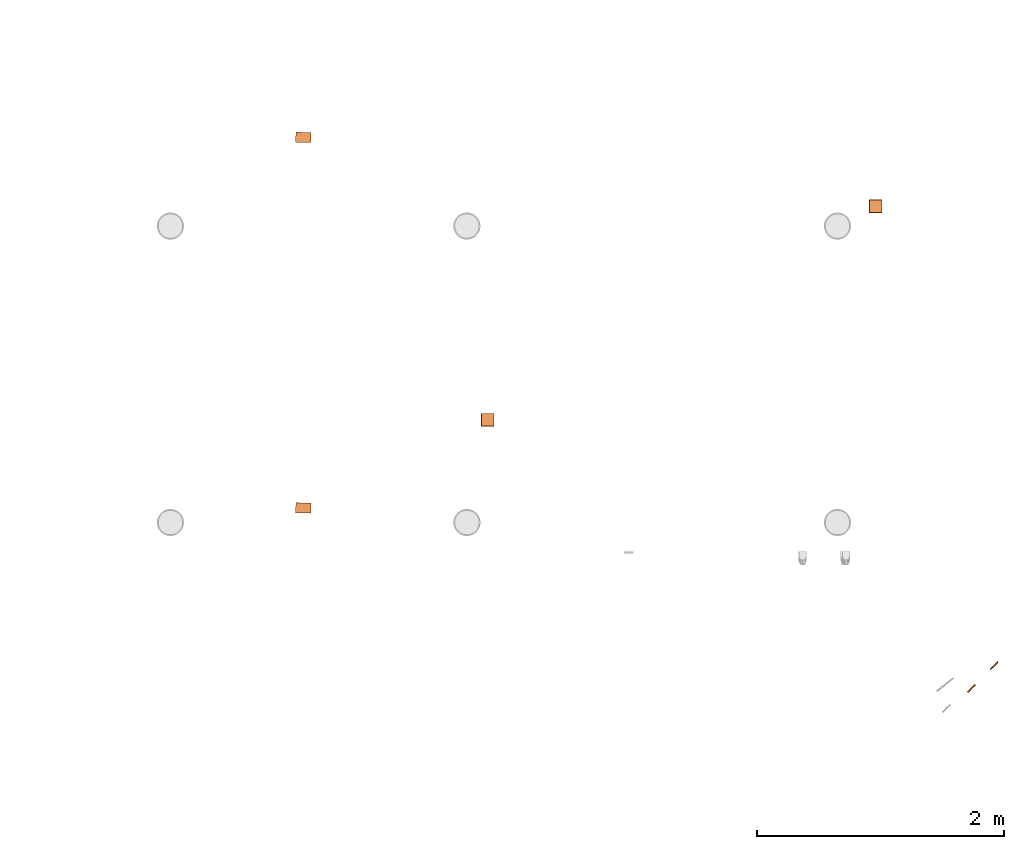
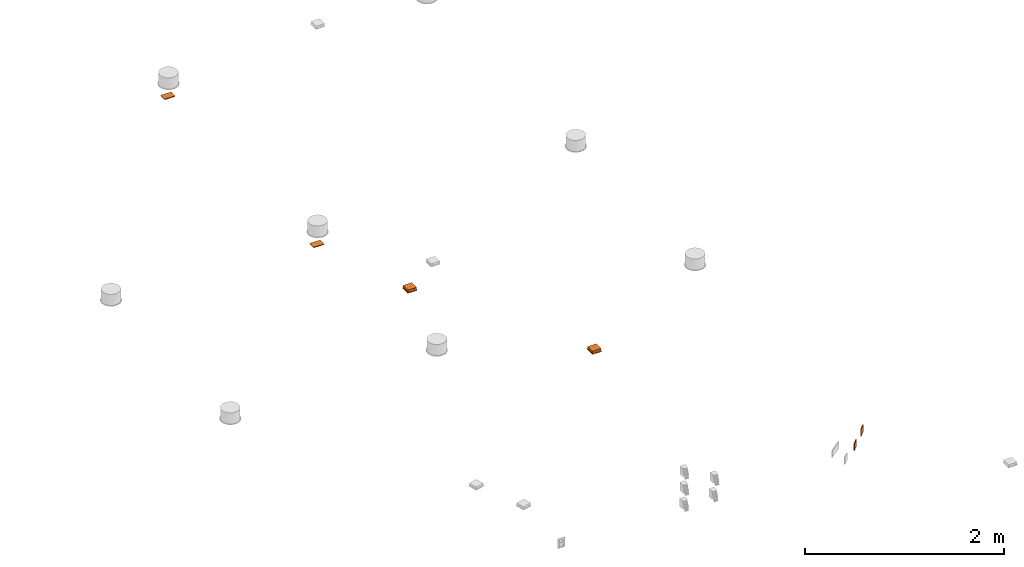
# One storey, part 5 of 9: 6 proxies.
"""IFC2X3 building model written with IfcOpenShell, lengths in millimetres."""

from ifc_helpers import new_model, entity, si_unit, converted_unit, derived_unit, direction, frame, frame_2d, origin, origin_2d_with_axis, place, context, subcontext, project, spatial, polyline, circle_curve, parameter, trimmed, segment, composite_curve, rectangle, circle, hollow_circle, outline, extrude, source, transform, mapped, material, type_object, element, save


model = new_model("IFC2X3")

# Units and contexts
model_context = context("Model", 3, precision=0.01, world=frame((0.0, 4.29681676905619e-09, 0.0)), true_north=direction((4.01073788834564e-13, 1.0)))
plan_context = context("Plan", 3, precision=0.01, world=frame((0.0, 4.29681676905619e-09, 0.0)), true_north=direction((4.01073788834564e-13, 1.0)))
body_context = subcontext(model_context, "Body", "Model", "MODEL_VIEW")
ifc_project = project(units=[converted_unit("PLANEANGLEUNIT", "DEGREE", entity("IfcPositiveLengthMeasure", 0.0174532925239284), si_unit("PLANEANGLEUNIT", "RADIAN"), dimensions=[0, 0, 0, 0, 0, 0, 0]), si_unit("AREAUNIT", "SQUARE_METRE"), si_unit("LENGTHUNIT", "METRE", prefix="MILLI"), si_unit("MASSUNIT", "GRAM", prefix="KILO"), si_unit("POWERUNIT", "WATT"), si_unit("PRESSUREUNIT", "PASCAL", prefix="KILO"), si_unit("FORCEUNIT", "NEWTON", prefix="KILO"), si_unit("ELECTRICVOLTAGEUNIT", "VOLT"), si_unit("ELECTRICCURRENTUNIT", "AMPERE"), si_unit("THERMODYNAMICTEMPERATUREUNIT", "DEGREE_CELSIUS"), si_unit("TIMEUNIT", "SECOND"), si_unit("VOLUMEUNIT", "CUBIC_METRE"), derived_unit("LINEARVELOCITYUNIT", [(si_unit("LENGTHUNIT", "METRE"), 1), (si_unit("TIMEUNIT", "SECOND"), -1)]), derived_unit("VOLUMETRICFLOWRATEUNIT", [(si_unit("VOLUMEUNIT", "CUBIC_METRE"), 1), (si_unit("TIMEUNIT", "SECOND"), -1)]), derived_unit("THERMALTRANSMITTANCEUNIT", [(si_unit("POWERUNIT", "WATT"), 1), (si_unit("THERMODYNAMICTEMPERATUREUNIT", "KELVIN"), -1), (si_unit("AREAUNIT", "SQUARE_METRE"), -1)]), derived_unit("SOUNDPRESSUREUNIT", [(si_unit("PRESSUREUNIT", "PASCAL"), 1)])], contexts=[model_context, plan_context])

# Site, building, storey
site_placement = place(None, frame((0.0, -4.29681676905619e-09, 0.0), z_axis=(0.0, 0.0, 1.0), x_axis=(1.0, 0.0, 0.0)))
site = spatial("IfcSite", under=ifc_project, at=site_placement, Name="Default", CompositionType="ELEMENT")
building_placement = place(site_placement, frame((0.0, 4.29681676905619e-09, 0.0), z_axis=(0.0, 0.0, 1.0), x_axis=(1.0, 0.0, 0.0)))
building = spatial("IfcBuilding", under=site, at=building_placement, CompositionType="ELEMENT")
storey_placement = place(building_placement, frame((0.0, 0.0, 210900.0), z_axis=(0.0, 0.0, 1.0), x_axis=(1.0, 0.0, 0.0)))
storey = spatial("IfcBuildingStorey", under=building, at=storey_placement, Name="Nivå F", CompositionType="ELEMENT", Elevation=210900.0)

# Proxies
ifc_material = material(Name="<Unnamed>")
building_element_proxy_type_1 = type_object("IfcBuildingElementProxyType", Name="Jordet-topolet-2-veis m_boks-i-tak:Jordet-topolet-2-veis m_boks-i-tak", PredefinedType="NOTDEFINED", material=ifc_material)
shared_shape_1 = source(origin(), body_context, "Body", "SweptSolid", [
    extrude(outline(composite_curve([segment(polyline([(-6.66666666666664, -6.66666666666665), (13.3333333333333, -6.66666666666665)]), True, "CONTINUOUS"), segment(trimmed(circle_curve(frame_2d((13.3333333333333, 13.3333333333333), x_axis=(-1.0, 0.0)), 20.0), [parameter(360.0)], [parameter(90.0)], True, "PARAMETER"), False, "CONTINUOUS"), segment(polyline([(-6.66666666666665, 13.3333333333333), (-6.66666666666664, -6.66666666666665)]), True, "CONTINUOUS")], self_intersect=False)), frame((39.0833333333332, 13.3933333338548, -17.1), z_axis=(0.0, 0.0, 1.0), x_axis=(-1.0, 0.0, 0.0)), (0.0, 0.0, 1.0), 0.200000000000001),
    extrude(outline(composite_curve([segment(polyline([(-6.66666666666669, -6.66666666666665), (13.3333333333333, -6.66666666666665)]), True, "CONTINUOUS"), segment(trimmed(circle_curve(frame_2d((13.3333333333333, 13.3333333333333), x_axis=(0.0, -1.0)), 20.0), [parameter(270.0)], [parameter(5.08888749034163e-14)], True, "PARAMETER"), False, "CONTINUOUS"), segment(polyline([(-6.66666666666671, 13.3333333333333), (-6.66666666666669, -6.66666666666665)]), True, "CONTINUOUS")], self_intersect=False)), frame((39.0833333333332, -13.3233333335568, -17.1), z_axis=(0.0, 0.0, 1.0), x_axis=(0.0, 1.0, 0.0)), (0.0, 0.0, 1.0), 0.200000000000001),
    extrude(outline(composite_curve([segment(polyline([(-6.66666666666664, -6.66666666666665), (13.3333333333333, -6.66666666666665)]), True, "CONTINUOUS"), segment(trimmed(circle_curve(frame_2d((13.3333333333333, 13.3333333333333), x_axis=(0.0, -1.0)), 20.0), [parameter(270.0)], [parameter(0.0)], True, "PARAMETER"), False, "CONTINUOUS"), segment(polyline([(-6.66666666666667, 13.3333333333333), (-6.66666666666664, -6.66666666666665)]), True, "CONTINUOUS")], self_intersect=False)), frame((12.4166666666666, 13.3433333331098, -17.1), z_axis=(0.0, 0.0, 1.0), x_axis=(0.0, -1.0, 0.0)), (0.0, 0.0, 1.0), 0.200000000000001),
    extrude(outline(composite_curve([segment(polyline([(-6.66666666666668, -6.66666666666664), (13.3333333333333, -6.66666666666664)]), True, "CONTINUOUS"), segment(trimmed(circle_curve(frame_2d((13.3333333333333, 13.3333333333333), x_axis=(0.0, -1.0)), 20.0), [parameter(270.0)], [parameter(0.0)], True, "PARAMETER"), False, "CONTINUOUS"), segment(polyline([(-6.66666666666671, 13.3333333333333), (-6.66666666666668, -6.66666666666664)]), True, "CONTINUOUS")], self_intersect=False)), frame((39.0833333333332, -13.3833333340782, -17.1), z_axis=(0.0, 0.0, 1.0), x_axis=(0.0, 1.0, 0.0)), (0.0, 0.0, 1.0), 0.200000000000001),
    extrude(outline(composite_curve([segment(polyline([(-6.66666666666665, -6.66666666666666), (13.3333333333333, -6.66666666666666)]), True, "CONTINUOUS"), segment(trimmed(circle_curve(frame_2d((13.3333333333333, 13.3333333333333), x_axis=(-1.0, 0.0)), 20.0), [parameter(360.0)], [parameter(89.9999999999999)], True, "PARAMETER"), False, "CONTINUOUS"), segment(polyline([(-6.66666666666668, 13.3333333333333), (-6.66666666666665, -6.66666666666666)]), True, "CONTINUOUS")], self_intersect=False)), frame((39.0833333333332, 13.3333333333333, -17.1), z_axis=(0.0, 0.0, 1.0), x_axis=(-1.0, 0.0, 0.0)), (0.0, 0.0, 1.0), 0.200000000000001),
    extrude(outline(composite_curve([segment(polyline([(-6.66666666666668, -6.66666666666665), (13.3333333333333, -6.66666666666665)]), True, "CONTINUOUS"), segment(trimmed(circle_curve(frame_2d((13.3333333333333, 13.3333333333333), x_axis=(-1.0, 0.0)), 20.0), [parameter(0.0)], [parameter(90.0)], True, "PARAMETER"), False, "CONTINUOUS"), segment(polyline([(-6.66666666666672, 13.3333333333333), (-6.66666666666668, -6.66666666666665)]), True, "CONTINUOUS")], self_intersect=False)), frame((12.4166666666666, -13.3333333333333, -17.1)), (0.0, 0.0, 1.0), 0.200000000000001),
    extrude(outline(composite_curve([segment(polyline([(-6.66666666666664, -6.66666666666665), (13.3333333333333, -6.66666666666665)]), True, "CONTINUOUS"), segment(trimmed(circle_curve(frame_2d((13.3333333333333, 13.3333333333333), x_axis=(-1.0, 0.0)), 20.0), [parameter(0.0)], [parameter(90.0)], True, "PARAMETER"), False, "CONTINUOUS"), segment(polyline([(-6.66666666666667, 13.3333333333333), (-6.66666666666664, -6.66666666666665)]), True, "CONTINUOUS")], self_intersect=False)), frame((-12.4166666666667, 13.3933333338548, -17.1), z_axis=(0.0, 0.0, 1.0), x_axis=(-1.0, 0.0, 0.0)), (0.0, 0.0, 1.0), 0.200000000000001),
    extrude(outline(composite_curve([segment(polyline([(-6.66666666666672, -6.66666666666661), (13.3333333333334, -6.66666666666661)]), True, "CONTINUOUS"), segment(trimmed(circle_curve(frame_2d((13.3333333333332, 13.3333333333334), x_axis=(0.0, -1.0)), 20.0), [parameter(270.0)], [parameter(3.56222124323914e-13)], True, "PARAMETER"), False, "CONTINUOUS"), segment(polyline([(-6.66666666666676, 13.3333333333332), (-6.66666666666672, -6.66666666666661)]), True, "CONTINUOUS")], self_intersect=False)), frame((-12.4166666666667, -13.3233333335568, -17.1), z_axis=(0.0, 0.0, 1.0), x_axis=(0.0, 1.0, 0.0)), (0.0, 0.0, 1.0), 0.200000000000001),
    extrude(outline(composite_curve([segment(polyline([(-6.66666666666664, -6.66666666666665), (13.3333333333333, -6.66666666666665)]), True, "CONTINUOUS"), segment(trimmed(circle_curve(frame_2d((13.3333333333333, 13.3333333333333), x_axis=(0.0, -1.0)), 20.0), [parameter(270.0)], [parameter(0.0)], True, "PARAMETER"), False, "CONTINUOUS"), segment(polyline([(-6.66666666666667, 13.3333333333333), (-6.66666666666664, -6.66666666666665)]), True, "CONTINUOUS")], self_intersect=False)), frame((-39.0833333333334, 13.3433333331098, -17.1), z_axis=(0.0, 0.0, 1.0), x_axis=(0.0, -1.0, 0.0)), (0.0, 0.0, 1.0), 0.200000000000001),
    extrude(outline(composite_curve([segment(polyline([(-6.66666666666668, -6.66666666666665), (13.3333333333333, -6.66666666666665)]), True, "CONTINUOUS"), segment(trimmed(circle_curve(frame_2d((13.3333333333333, 13.3333333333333), x_axis=(0.0, -1.0)), 20.0), [parameter(270.0)], [parameter(0.0)], True, "PARAMETER"), False, "CONTINUOUS"), segment(polyline([(-6.66666666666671, 13.3333333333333), (-6.66666666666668, -6.66666666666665)]), True, "CONTINUOUS")], self_intersect=False)), frame((-12.4166666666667, -13.3833333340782, -17.1), z_axis=(0.0, 0.0, 1.0), x_axis=(0.0, 1.0, 0.0)), (0.0, 0.0, 1.0), 0.200000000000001),
    extrude(outline(composite_curve([segment(polyline([(-6.66666666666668, -6.66666666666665), (13.3333333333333, -6.66666666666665)]), True, "CONTINUOUS"), segment(trimmed(circle_curve(frame_2d((13.3333333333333, 13.3333333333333), x_axis=(-1.0, 0.0)), 20.0), [parameter(0.0)], [parameter(90.0)], True, "PARAMETER"), False, "CONTINUOUS"), segment(polyline([(-6.66666666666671, 13.3333333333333), (-6.66666666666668, -6.66666666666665)]), True, "CONTINUOUS")], self_intersect=False)), frame((-12.4166666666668, 13.3333333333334, -17.1), z_axis=(0.0, 0.0, 1.0), x_axis=(-1.0, 0.0, 0.0)), (0.0, 0.0, 1.0), 0.200000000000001),
    extrude(outline(composite_curve([segment(polyline([(-6.66666666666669, -6.66666666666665), (13.3333333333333, -6.66666666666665)]), True, "CONTINUOUS"), segment(trimmed(circle_curve(frame_2d((13.3333333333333, 13.3333333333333), x_axis=(-1.0, 0.0)), 20.0), [parameter(0.0)], [parameter(90.0)], True, "PARAMETER"), False, "CONTINUOUS"), segment(polyline([(-6.66666666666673, 13.3333333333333), (-6.66666666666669, -6.66666666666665)]), True, "CONTINUOUS")], self_intersect=False)), frame((-39.0833333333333, -13.3333333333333, -17.1)), (0.0, 0.0, 1.0), 0.200000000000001),
    extrude(rectangle(XDim=0.200000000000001, YDim=1.0, at=origin_2d_with_axis()), frame((26.1999999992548, -17.5, -19.0), z_axis=(0.0, 0.0, 1.0), x_axis=(0.0, 1.0, 0.0)), (0.0, 0.0, 1.0), 6.0),
    extrude(rectangle(XDim=0.200000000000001, YDim=1.0, at=frame_2d((2.11636264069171e-15, 0.0), x_axis=(1.0, 0.0))), frame((26.1999999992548, -19.5, -17.0), z_axis=(0.0, 0.0, 1.0), x_axis=(0.0, 1.0, 0.0)), (0.0, 0.0, 1.0), 12.0),
    extrude(rectangle(XDim=0.200000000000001, YDim=1.0, at=frame_2d((2.11636264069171e-15, 0.0), x_axis=(1.0, 0.0))), frame((26.1999999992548, 17.5, -19.0), z_axis=(0.0, 0.0, 1.0), x_axis=(0.0, 1.0, 0.0)), (0.0, 0.0, 1.0), 6.0),
    extrude(rectangle(XDim=0.200000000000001, YDim=1.0, at=frame_2d((2.11636264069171e-15, 0.0), x_axis=(1.0, 0.0))), frame((26.1999999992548, 19.5, -17.0), z_axis=(0.0, 0.0, 1.0), x_axis=(0.0, 1.0, 0.0)), (0.0, 0.0, 1.0), 12.0),
    extrude(rectangle(XDim=0.200000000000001, YDim=1.0, at=origin_2d_with_axis()), frame((-25.3000000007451, -17.5, -19.0), z_axis=(0.0, 0.0, 1.0), x_axis=(0.0, 1.0, 0.0)), (0.0, 0.0, 1.0), 6.0),
    extrude(rectangle(XDim=0.200000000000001, YDim=1.0, at=frame_2d((2.11636264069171e-15, 0.0), x_axis=(1.0, 0.0))), frame((-25.3000000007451, -19.5, -17.0), z_axis=(0.0, 0.0, 1.0), x_axis=(0.0, 1.0, 0.0)), (0.0, 0.0, 1.0), 12.0),
    extrude(rectangle(XDim=0.200000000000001, YDim=1.0, at=frame_2d((2.11636264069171e-15, 0.0), x_axis=(1.0, 0.0))), frame((-25.3000000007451, 17.5, -19.0), z_axis=(0.0, 0.0, 1.0), x_axis=(0.0, 1.0, 0.0)), (0.0, 0.0, 1.0), 6.0),
    extrude(rectangle(XDim=0.200000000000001, YDim=1.0, at=frame_2d((2.11636264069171e-15, 0.0), x_axis=(1.0, 0.0))), frame((-25.3000000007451, 19.5, -17.0), z_axis=(0.0, 0.0, 1.0), x_axis=(0.0, 1.0, 0.0)), (0.0, 0.0, 1.0), 12.0),
    extrude(rectangle(XDim=11.0, YDim=40.0, at=origin_2d_with_axis()), frame((25.7499999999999, 25.5099999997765, -17.1), z_axis=(0.0, 0.0, 1.0), x_axis=(0.0, -1.0, 0.0)), (0.0, 0.0, 1.0), 0.200000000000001),
    extrude(rectangle(XDim=40.0, YDim=11.0, at=frame_2d((5.32907051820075e-15, 2.22044604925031e-15), x_axis=(1.0, 0.0))), frame((25.7499999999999, -25.5, -17.1)), (0.0, 0.0, 1.0), 0.200000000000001),
    extrude(rectangle(XDim=5.75, YDim=61.9999999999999, at=origin_2d_with_axis()), frame((48.625, 0.0, -17.1)), (0.0, 0.0, 1.0), 0.200000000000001),
    extrude(rectangle(XDim=61.9999999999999, YDim=5.74999999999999, at=frame_2d((0.0, 4.44089209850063e-16), x_axis=(1.0, 0.0))), frame((2.87499999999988, 0.0, -17.1), z_axis=(0.0, 0.0, 1.0), x_axis=(0.0, 1.0, 0.0)), (0.0, 0.0, 1.0), 0.200000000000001),
    extrude(rectangle(XDim=11.0, YDim=40.0, at=frame_2d((0.0, -3.5527136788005e-15), x_axis=(1.0, 0.0))), frame((-25.75, 25.5099999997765, -17.1), z_axis=(0.0, 0.0, 1.0), x_axis=(0.0, -1.0, 0.0)), (0.0, 0.0, 1.0), 0.200000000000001),
    extrude(rectangle(XDim=40.0, YDim=11.0, at=frame_2d((0.0, 2.22044604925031e-15), x_axis=(1.0, 0.0))), frame((-25.75, -25.5, -17.1)), (0.0, 0.0, 1.0), 0.200000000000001),
    extrude(rectangle(XDim=5.74999999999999, YDim=61.9999999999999, at=frame_2d((-4.44089209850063e-16, 0.0), x_axis=(1.0, 0.0))), frame((-2.875, 0.0, -17.1)), (0.0, 0.0, 1.0), 0.200000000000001),
    extrude(rectangle(XDim=61.9999999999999, YDim=5.75, at=origin_2d_with_axis()), frame((-48.6250000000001, 0.0, -17.1), z_axis=(0.0, 0.0, 1.0), x_axis=(0.0, 1.0, 0.0)), (0.0, 0.0, 1.0), 0.200000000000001),
    extrude(outline(polyline([(-28.6835176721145, -30.3192317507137), (-10.1362806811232, -30.3192317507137), (23.2918790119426, 21.8972229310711), (15.5279193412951, 38.7412405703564), (-28.6835176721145, -30.3192317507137)])), frame((56.42317787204, 0.0, -10.9359815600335), z_axis=(0.768221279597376, 0.0, -0.64018439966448), x_axis=(-0.539163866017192, 0.539163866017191, -0.646996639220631)), (0.0, 0.0, 1.0), 0.199999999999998),
    extrude(outline(polyline([(-28.6835176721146, -30.3192317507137), (-10.1362806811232, -30.3192317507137), (23.2918790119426, 21.897222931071), (15.5279193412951, 38.7412405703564), (-28.6835176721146, -30.3192317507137)])), frame((-56.5768221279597, 0.0, -11.0640184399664), z_axis=(0.768221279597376, 0.0, 0.64018439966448), x_axis=(0.539163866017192, 0.539163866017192, -0.646996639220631)), (0.0, 0.0, 1.0), 0.199999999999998),
    extrude(outline(polyline([(-51.4999999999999, -7.81024967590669), (51.5, -7.81024967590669), (61.4999999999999, 7.81024967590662), (-61.5, 7.81024967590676), (-51.4999999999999, -7.81024967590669)])), frame((0.0, -36.0768221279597, -11.0640184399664), z_axis=(0.0, 0.768221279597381, 0.640184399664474), x_axis=(-1.0, 0.0, 0.0)), (0.0, 0.0, 1.0), 0.200000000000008),
    extrude(outline(polyline([(-51.4999999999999, -7.81024967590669), (51.5, -7.81024967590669), (61.4999999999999, 7.81024967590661), (-61.5, 7.81024967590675), (-51.4999999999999, -7.81024967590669)])), frame((0.0, 35.9231778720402, -10.9359815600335), z_axis=(0.0, 0.768221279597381, -0.640184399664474), x_axis=(-1.0, 0.0, 0.0)), (0.0, 0.0, 1.0), 0.199999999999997),
    extrude(circle(Radius=2.5, at=frame_2d((-4.22994972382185e-15, -1.1255311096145e-14), x_axis=(1.0, 0.0))), frame((35.7499999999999, 0.0, -5.6), z_axis=(0.0, 0.0, 1.0), x_axis=(-1.0, 0.0, 0.0)), (0.0, 0.0, 1.0), 0.2),
    extrude(circle(Radius=2.5, at=frame_2d((0.0, -1.1255311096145e-14), x_axis=(1.0, 0.0))), frame((15.7499999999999, 0.0, -5.6), z_axis=(0.0, 0.0, 1.0), x_axis=(-1.0, 0.0, 0.0)), (0.0, 0.0, 1.0), 0.2),
    extrude(circle(Radius=2.5, at=frame_2d((0.0, -1.1255311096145e-14), x_axis=(1.0, 0.0))), frame((-15.75, 0.0, -5.6), z_axis=(0.0, 0.0, 1.0), x_axis=(-1.0, 0.0, 0.0)), (0.0, 0.0, 1.0), 0.2),
    extrude(circle(Radius=2.5, at=frame_2d((0.0, -1.1255311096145e-14), x_axis=(1.0, 0.0))), frame((-35.75, 0.0, -5.6), z_axis=(0.0, 0.0, 1.0), x_axis=(-1.0, 0.0, 0.0)), (0.0, 0.0, 1.0), 0.2),
    extrude(circle(Radius=20.0, at=frame_2d((0.0, -9.00424887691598e-14), x_axis=(1.0, 0.0))), frame((25.7499999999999, 0.0, -5.09999999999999), z_axis=(0.0, 0.0, 1.0), x_axis=(-1.0, 0.0, 0.0)), (0.0, 0.0, 1.0), 0.2),
    extrude(circle(Radius=20.0, at=frame_2d((4.22994972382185e-15, -9.00424887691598e-14), x_axis=(1.0, 0.0))), frame((-25.75, 0.0, -5.09999999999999), z_axis=(0.0, 0.0, 1.0), x_axis=(-1.0, 0.0, 0.0)), (0.0, 0.0, 1.0), 0.2),
    extrude(outline(composite_curve([segment(trimmed(circle_curve(frame_2d((-0.800000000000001, 0.799999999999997), x_axis=(1.0, 0.0)), 2.0), [parameter(270.0)], [parameter(0.0)], True, "PARAMETER"), True, "CONTINUOUS"), segment(polyline([(1.2, 0.799999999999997), (0.400000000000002, 0.799999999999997)]), True, "CONTINUOUS"), segment(trimmed(circle_curve(frame_2d((-0.800000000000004, 0.800000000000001), x_axis=(0.0, -1.0)), 1.20000000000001), [parameter(0.0)], [parameter(89.9999999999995)], True, "PARAMETER"), False, "CONTINUOUS"), segment(polyline([(-0.799999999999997, -0.400000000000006), (-0.799999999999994, -1.2)]), True, "CONTINUOUS")], self_intersect=False)), frame((24.6999999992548, -18.3, -17.8), z_axis=(1.0, 0.0, 0.0), x_axis=(0.0, 0.0, -1.0)), (0.0, 0.0, 1.0), 2.0),
    extrude(outline(composite_curve([segment(polyline([(-1.2, -0.800000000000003), (-0.399999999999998, -0.800000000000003)]), True, "CONTINUOUS"), segment(trimmed(circle_curve(frame_2d((0.800000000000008, -0.800000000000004), x_axis=(-1.0, 0.0)), 1.20000000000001), [parameter(270.000000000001)], [parameter(0.0)], True, "PARAMETER"), False, "CONTINUOUS"), segment(polyline([(0.799999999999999, 0.400000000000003), (0.799999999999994, 1.2)]), True, "CONTINUOUS"), segment(trimmed(circle_curve(frame_2d((0.800000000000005, -0.8), x_axis=(0.0, 1.0)), 2.0), [parameter(0.0)], [parameter(89.9999999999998)], True, "PARAMETER"), True, "CONTINUOUS")], self_intersect=False)), frame((25.6999999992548, 18.3, -17.8), z_axis=(1.0, 0.0, 0.0), x_axis=(0.0, -1.0, 0.0)), (0.0, 0.0, 1.0), 2.0),
    extrude(outline(composite_curve([segment(trimmed(circle_curve(frame_2d((-0.800000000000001, 0.799999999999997), x_axis=(1.0, 0.0)), 2.0), [parameter(270.0)], [parameter(0.0)], True, "PARAMETER"), True, "CONTINUOUS"), segment(polyline([(1.2, 0.799999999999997), (0.400000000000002, 0.799999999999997)]), True, "CONTINUOUS"), segment(trimmed(circle_curve(frame_2d((-0.800000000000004, 0.800000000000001), x_axis=(0.0, -1.0)), 1.20000000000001), [parameter(0.0)], [parameter(89.9999999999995)], True, "PARAMETER"), False, "CONTINUOUS"), segment(polyline([(-0.799999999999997, -0.400000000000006), (-0.799999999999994, -1.2)]), True, "CONTINUOUS")], self_intersect=False)), frame((-26.8000000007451, -18.3, -17.8), z_axis=(1.0, 0.0, 0.0), x_axis=(0.0, 0.0, -1.0)), (0.0, 0.0, 1.0), 2.0),
    extrude(outline(composite_curve([segment(polyline([(-1.2, -0.800000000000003), (-0.399999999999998, -0.800000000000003)]), True, "CONTINUOUS"), segment(trimmed(circle_curve(frame_2d((0.800000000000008, -0.800000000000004), x_axis=(-1.0, 0.0)), 1.20000000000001), [parameter(270.000000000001)], [parameter(0.0)], True, "PARAMETER"), False, "CONTINUOUS"), segment(polyline([(0.799999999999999, 0.400000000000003), (0.799999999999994, 1.2)]), True, "CONTINUOUS"), segment(trimmed(circle_curve(frame_2d((0.800000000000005, -0.8), x_axis=(0.0, 1.0)), 2.0), [parameter(0.0)], [parameter(89.9999999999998)], True, "PARAMETER"), True, "CONTINUOUS")], self_intersect=False)), frame((-25.8000000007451, 18.3, -17.8), z_axis=(1.0, 0.0, 0.0), x_axis=(0.0, -1.0, 0.0)), (0.0, 0.0, 1.0), 2.0),
    extrude(rectangle(XDim=81.9999999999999, YDim=123.0, at=origin_2d_with_axis()), frame((0.0, 0.0, -5.0), z_axis=(0.0, 0.0, 1.0), x_axis=(0.0, -1.0, 0.0)), (0.0, 0.0, 1.0), 4.99999999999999),
    extrude(hollow_circle(Radius=20.0, WallThickness=0.199999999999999, at=frame_2d((0.0, -9.00424887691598e-14), x_axis=(1.0, 0.0))), frame((25.7499999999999, 0.0, -17.0), z_axis=(0.0, 0.0, 1.0), x_axis=(-1.0, 0.0, 0.0)), (0.0, 0.0, 1.0), 12.0),
    extrude(hollow_circle(Radius=20.0, WallThickness=0.199999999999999, at=frame_2d((4.22994972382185e-15, -9.00424887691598e-14), x_axis=(1.0, 0.0))), frame((-25.75, 0.0, -17.0), z_axis=(0.0, 0.0, 1.0), x_axis=(-1.0, 0.0, 0.0)), (0.0, 0.0, 1.0), 12.0),
])
for number, where, z_axis, x_axis in (
    (1, (723175.653871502, 438717.929486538, 4480.0), (0.0, 0.0, 1.0), (0.999548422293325, -0.0300491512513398, 0.0)),
    (2, (723175.653871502, 441717.929486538, 4480.0), (0.0, 0.0, 1.0), (0.999548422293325, -0.0300491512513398, 0.0)),
):
    element("IfcBuildingElementProxy", number, at=place(storey_placement, frame(where, z_axis=z_axis, x_axis=x_axis)), inside=storey, type_object=building_element_proxy_type_1, material=ifc_material, Name="Jordet-topolet-2-veis m_boks-i-tak:Jordet-topolet-2-veis m_boks-i-tak", ObjectType="Jordet-topolet-2-veis m_boks-i-tak:Jordet-topolet-2-veis m_boks-i-tak", context=body_context, shape_type="MappedRepresentation", body=[
        mapped(shared_shape_1, transform((0.0, 0.0, 0.0), scale=1.0)),
    ])
building_element_proxy_type_2 = type_object("IfcBuildingElementProxyType", Name="Koblingsboks tak-himling:Koblingsboks tak-himling", PredefinedType="NOTDEFINED", material=ifc_material)
shared_shape_2 = source(origin(), body_context, "Body", "SweptSolid", [
    extrude(circle(Radius=7.40000009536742, at=frame_2d((0.0, -1.05748743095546e-14), x_axis=(1.0, 0.0))), frame((50.0000000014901, -16.6666666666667, -12.9499997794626), z_axis=(1.0, 0.0, 0.0), x_axis=(0.0, 1.0, 0.0)), (0.0, 0.0, 1.0), 0.199999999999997),
    extrude(circle(Radius=7.40000009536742, at=frame_2d((0.0, -1.05748743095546e-14), x_axis=(1.0, 0.0))), frame((50.0000000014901, 16.6666666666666, -12.9499997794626), z_axis=(1.0, 0.0, 0.0), x_axis=(0.0, 1.0, 0.0)), (0.0, 0.0, 1.0), 0.199999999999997),
    extrude(circle(Radius=7.40000009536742, at=frame_2d((-2.11497486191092e-15, -1.26898491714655e-14), x_axis=(1.0, 0.0))), frame((25.0, -50.2000000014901, -12.9499997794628), z_axis=(0.0, 1.0, 0.0), x_axis=(0.0, 0.0, 1.0)), (0.0, 0.0, 1.0), 0.199999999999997),
    extrude(circle(Radius=7.40000009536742, at=frame_2d((-2.11497486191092e-15, -1.19550300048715e-14), x_axis=(1.0, 0.0))), frame((0.0, -50.2000000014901, -12.9499997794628), z_axis=(0.0, 1.0, 0.0), x_axis=(0.0, 0.0, 1.0)), (0.0, 0.0, 1.0), 0.199999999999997),
    extrude(circle(Radius=7.40000009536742, at=frame_2d((-2.11497486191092e-15, -1.26898491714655e-14), x_axis=(1.0, 0.0))), frame((-25.0, -50.2000000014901, -12.9499997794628), z_axis=(0.0, 1.0, 0.0), x_axis=(0.0, 0.0, 1.0)), (0.0, 0.0, 1.0), 0.199999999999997),
    extrude(circle(Radius=7.40000009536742, at=frame_2d((-2.11497486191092e-15, -1.26898491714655e-14), x_axis=(1.0, 0.0))), frame((25.0, 50.0000000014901, -12.9499997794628), z_axis=(0.0, 1.0, 0.0), x_axis=(0.0, 0.0, 1.0)), (0.0, 0.0, 1.0), 0.199999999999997),
    extrude(circle(Radius=7.40000009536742, at=frame_2d((-2.11497486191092e-15, -1.19550300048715e-14), x_axis=(1.0, 0.0))), frame((0.0, 50.0000000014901, -12.9499997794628), z_axis=(0.0, 1.0, 0.0), x_axis=(0.0, 0.0, 1.0)), (0.0, 0.0, 1.0), 0.199999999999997),
    extrude(circle(Radius=7.40000009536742, at=frame_2d((-2.11497486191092e-15, -1.26898491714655e-14), x_axis=(1.0, 0.0))), frame((-25.0, 50.0000000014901, -12.9499997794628), z_axis=(0.0, 1.0, 0.0), x_axis=(0.0, 0.0, 1.0)), (0.0, 0.0, 1.0), 0.199999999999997),
    extrude(circle(Radius=7.40000009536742, at=frame_2d((0.0, -1.05748743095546e-14), x_axis=(1.0, 0.0))), frame((-50.2000000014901, -16.6666666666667, -12.9499997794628), z_axis=(1.0, 0.0, 0.0), x_axis=(0.0, 1.0, 0.0)), (0.0, 0.0, 1.0), 0.199999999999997),
    extrude(circle(Radius=7.40000009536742, at=frame_2d((0.0, -1.05748743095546e-14), x_axis=(1.0, 0.0))), frame((-50.2000000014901, 16.6666666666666, -12.9499997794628), z_axis=(1.0, 0.0, 0.0), x_axis=(0.0, 1.0, 0.0)), (0.0, 0.0, 1.0), 0.199999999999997),
    extrude(rectangle(XDim=99.9999999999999, YDim=99.9999999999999, at=origin_2d_with_axis()), frame((0.0, 0.0, -25.8999996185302), z_axis=(0.0, 0.0, 1.0), x_axis=(0.0, -1.0, 0.0)), (0.0, 0.0, 1.0), 25.8999996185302),
    extrude(rectangle(XDim=106.0, YDim=106.0, at=origin_2d_with_axis()), frame((0.0, 0.0, -37.0), z_axis=(0.0, 0.0, 1.0), x_axis=(0.0, -1.0, 0.0)), (0.0, 0.0, 1.0), 11.1000003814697),
])
for number, where, z_axis, x_axis, name in (
    (3, (727809.240152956, 441160.872493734, 100.0), (0.0, 0.0, 1.0), (-1.0, 0.0, 0.0), "Koblingsboks tak-himling:Koblingsboks tak-himling"),
    (4, (724667.565299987, 439431.500465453, 3000.0), (0.0, 0.0, 1.0), (-1.0, 0.0, 0.0), "Koblingsboks tak-himling:Koblingsboks tak-himling"),
):
    element("IfcBuildingElementProxy", number, at=place(storey_placement, frame(where, z_axis=z_axis, x_axis=x_axis)), inside=storey, type_object=building_element_proxy_type_2, material=ifc_material, Name=name, ObjectType="Koblingsboks tak-himling:Koblingsboks tak-himling", context=body_context, shape_type="MappedRepresentation", body=[
        mapped(shared_shape_2, transform((0.0, 0.0, 0.0), scale=1.0)),
    ])
building_element_proxy_type_3 = type_object("IfcBuildingElementProxyType", Name="Bryter 1-polet m_boks:1066A", PredefinedType="NOTDEFINED", material=ifc_material)
shared_shape_3 = source(origin(), body_context, "Body", "SweptSolid", [
    extrude(rectangle(XDim=85.9999999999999, YDim=9.99999999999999, at=origin_2d_with_axis()), frame((0.0, 5.0, -43.0)), (0.0, 0.0, 1.0), 85.9999999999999),
])
for number, where, z_axis, x_axis, name in (
    (5, (728581.676552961, 437260.83970331, 1000.0), (0.0, 0.0, 1.0), (-0.707106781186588, -0.707106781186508, 0.0), "Bryter 1-polet m_boks:1066A"),
    (6, (728765.524316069, 437444.687466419, 1000.0), (0.0, 0.0, 1.0), (-0.707106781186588, -0.707106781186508, 0.0), "Bryter 1-polet m_boks:1066A"),
):
    element("IfcBuildingElementProxy", number, at=place(storey_placement, frame(where, z_axis=z_axis, x_axis=x_axis)), inside=storey, type_object=building_element_proxy_type_3, material=ifc_material, Name=name, ObjectType="Bryter 1-polet m_boks:1066A", context=body_context, shape_type="MappedRepresentation", body=[
        mapped(shared_shape_3, transform((0.0, 0.0, 0.0), scale=1.0)),
    ])

save(model, "model.ifc")
